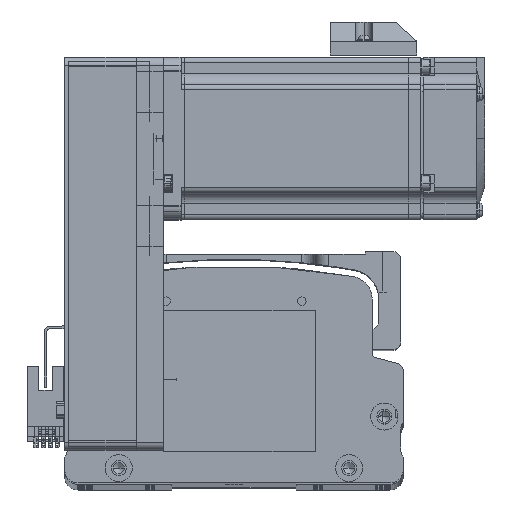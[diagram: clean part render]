
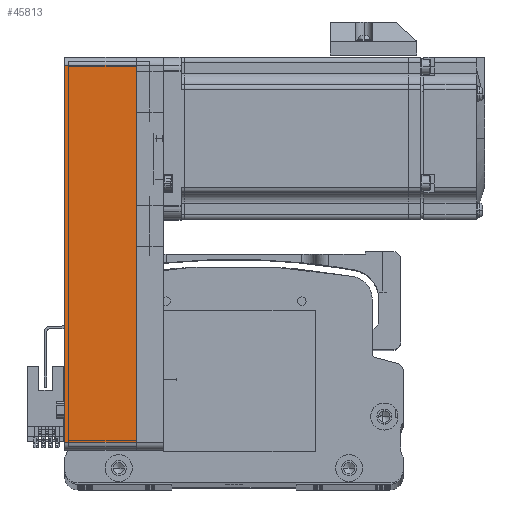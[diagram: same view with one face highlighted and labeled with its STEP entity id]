
A CAD part, top view. The second image highlights one B-rep face of the part: STEP entity #45813.
In plain terms, the highlighted planar face has unit normal (0, 0, 1) as drawn and (0, -1, 0) by its records, which use the part's own axes.
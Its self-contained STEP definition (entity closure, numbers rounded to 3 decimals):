
#511 = LINE ( 'NONE', #50265, #68375 ) ;
#569 = CARTESIAN_POINT ( 'NONE',  ( 69.5, -30., 0. ) ) ;
#9454 = ORIENTED_EDGE ( 'NONE', *, *, #21498, .T. ) ;
#9639 = ORIENTED_EDGE ( 'NONE', *, *, #31012, .T. ) ;
#10003 = VERTEX_POINT ( 'NONE', #39716 ) ;
#11532 = CARTESIAN_POINT ( 'NONE',  ( -69.5, -30., 26.5 ) ) ;
#11816 = ORIENTED_EDGE ( 'NONE', *, *, #40139, .T. ) ;
#12380 = LINE ( 'NONE', #77564, #80320 ) ;
#13729 = DIRECTION ( 'NONE',  ( 1., 0., 0. ) ) ;
#15150 = DIRECTION ( 'NONE',  ( 0., 0., -1. ) ) ;
#15923 = ORIENTED_EDGE ( 'NONE', *, *, #37130, .F. ) ;
#19913 = AXIS2_PLACEMENT_3D ( 'NONE', #71326, #31867, #77926 ) ;
#21363 = LINE ( 'NONE', #41342, #71787 ) ;
#21498 = EDGE_CURVE ( 'NONE', #42563, #10003, #21363, .T. ) ;
#24103 = DIRECTION ( 'NONE',  ( 1., 0., 0. ) ) ;
#26858 = EDGE_LOOP ( 'NONE', ( #9639, #11816, #15923, #9454 ) ) ;
#28246 = CARTESIAN_POINT ( 'NONE',  ( 69.5, -30., 26.5 ) ) ;
#31012 = EDGE_CURVE ( 'NONE', #10003, #82106, #81194, .T. ) ;
#31867 = DIRECTION ( 'NONE',  ( 0., 1., 0. ) ) ;
#37130 = EDGE_CURVE ( 'NONE', #42563, #55744, #511, .T. ) ;
#39716 = CARTESIAN_POINT ( 'NONE',  ( -69.5, -30., 0. ) ) ;
#40139 = EDGE_CURVE ( 'NONE', #82106, #55744, #12380, .T. ) ;
#41342 = CARTESIAN_POINT ( 'NONE',  ( -69.5, -30., 26.5 ) ) ;
#42563 = VERTEX_POINT ( 'NONE', #11532 ) ;
#44884 = PLANE ( 'NONE',  #19913 ) ;
#45813 = ADVANCED_FACE ( 'NONE', ( #46131 ), #44884, .F. ) ;
#46131 = FACE_OUTER_BOUND ( 'NONE', #26858, .T. ) ;
#50265 = CARTESIAN_POINT ( 'NONE',  ( 72.5, -30., 26.5 ) ) ;
#51402 = DIRECTION ( 'NONE',  ( 0., 0., 1. ) ) ;
#55744 = VERTEX_POINT ( 'NONE', #28246 ) ;
#66352 = CARTESIAN_POINT ( 'NONE',  ( 72.5, -30., 0. ) ) ;
#68375 = VECTOR ( 'NONE', #24103, 1000. ) ;
#71326 = CARTESIAN_POINT ( 'NONE',  ( 72.5, -30., 26.5 ) ) ;
#71787 = VECTOR ( 'NONE', #15150, 1000. ) ;
#77069 = VECTOR ( 'NONE', #13729, 1000. ) ;
#77564 = CARTESIAN_POINT ( 'NONE',  ( 69.5, -30., 26.5 ) ) ;
#77926 = DIRECTION ( 'NONE',  ( -1., 0., 0. ) ) ;
#80320 = VECTOR ( 'NONE', #51402, 1000. ) ;
#81194 = LINE ( 'NONE', #66352, #77069 ) ;
#82106 = VERTEX_POINT ( 'NONE', #569 ) ;
